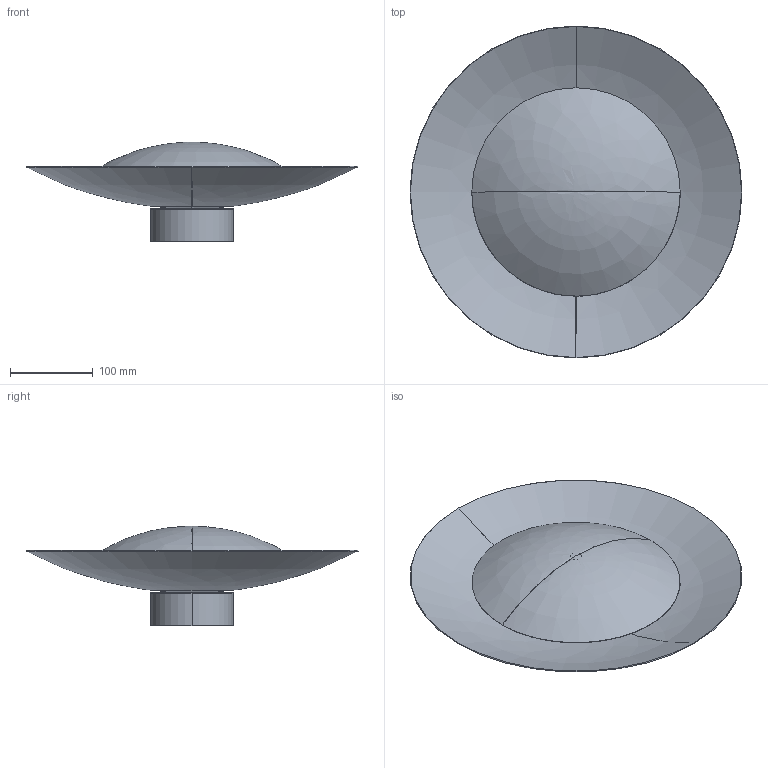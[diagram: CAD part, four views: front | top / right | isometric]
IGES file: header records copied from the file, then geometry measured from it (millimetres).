
Start section: SolidWorks IGES file using analytic representation for surfaces
Global section: file name: C:\Users\Agus\Desktop\a1203\40\A1203-40.IGS; native system: SolidWorks 2018; preprocessor: SolidWorks 2018; author: Agus; date: 200403.094123; units: millimetre
Bounding box: 400 x 400 x 119.91 mm (x, y, z)
Surface area: 447397.4 mm2 (no closed solid volume)
Topology: 0 solids, 0 shells, 56 faces, 760 edges, 759 vertices
Faces by surface type: revolution 34, bspline 22
